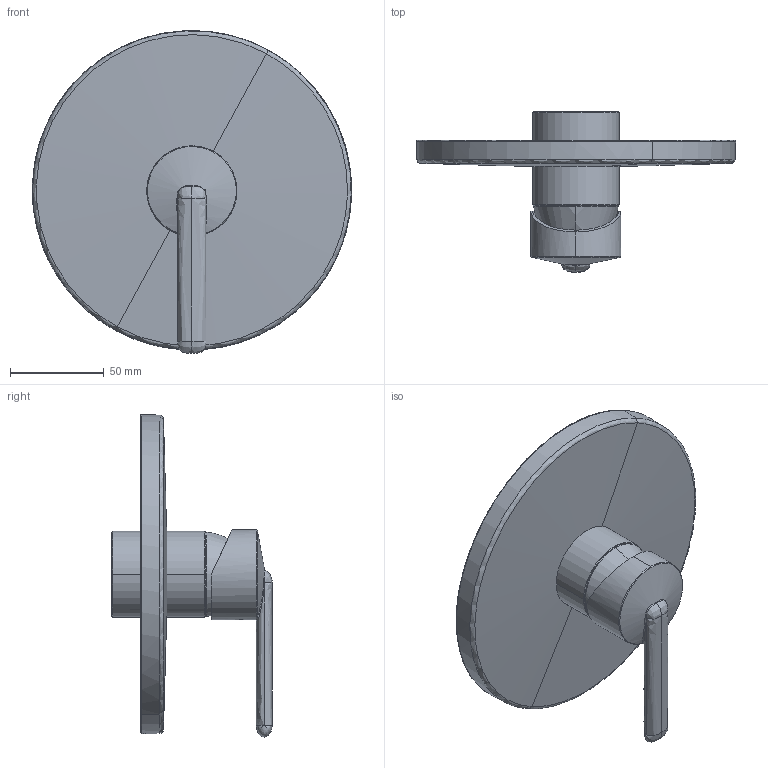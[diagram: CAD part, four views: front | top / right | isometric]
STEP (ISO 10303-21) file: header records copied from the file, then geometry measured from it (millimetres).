
FILE_DESCRIPTION(/* description */ (''),/* implementation_level */ '2;1');
FILE_NAME(/* name */ 'BA42100100+',/* time_stamp */ '2025-01-17T10:56:47+01:00',/* author */ (''),/* organization */ (''),/* preprocessor_version */ 'ST-DEVELOPER v16.5',/* originating_system */ 'Rhino 7.37',/* authorisation */ '');
FILE_SCHEMA (('CONFIG_CONTROL_DESIGN'));
Length unit declared in the file: millimetre
Products named in the file (1): Document
Bounding box: 169.96 x 85.34 x 171.83 mm (x, y, z)
Volume: 102645.4 mm3; surface area: 49597.2 mm2
Topology: 3 solids, 6 shells, 67 faces, 163 edges, 102 vertices
Faces by surface type: bspline 46, plane 15, cylinder 6
Entity records: 5102 total; most frequent: CARTESIAN_POINT 4080, ORIENTED_EDGE 296, EDGE_CURVE 159, VERTEX_POINT 102, B_SPLINE_CURVE_WITH_KNOTS 79, EDGE_LOOP 69, ADVANCED_FACE 67, FACE_OUTER_BOUND 67
